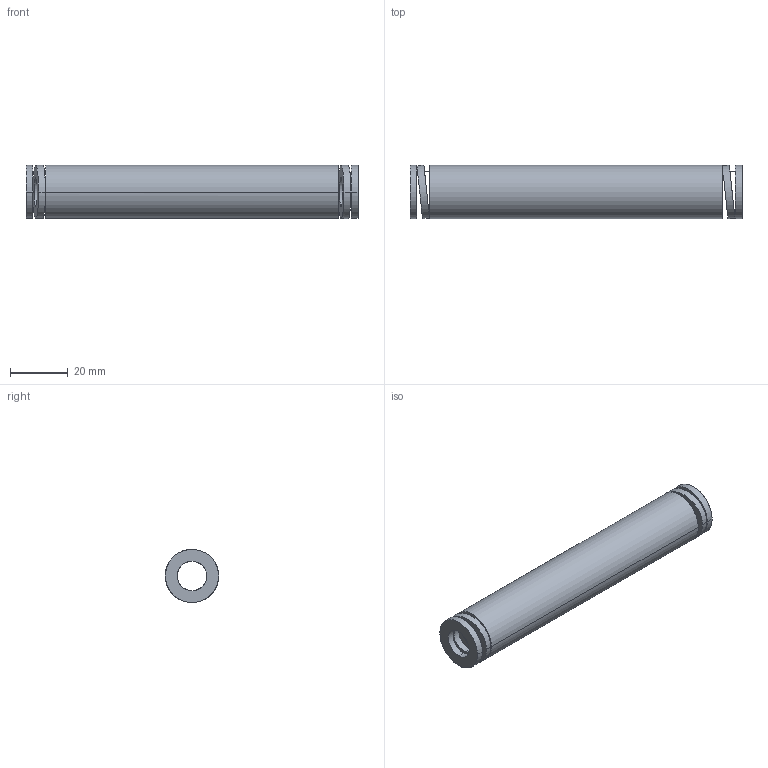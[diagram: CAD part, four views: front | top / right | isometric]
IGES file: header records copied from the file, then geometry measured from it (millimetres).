
Start section: START RECORD GO HERE.
Global section: file name: 392-B20-115.igs; native system: DASSAULT SYSTEMES CATIA V5 R20 - www.3ds.com; preprocessor: CATIA Version 5 Release 20 ; author: Utente; organization: NB04-ASUS; date: 20210812.154702; units: millimetre
Bounding box: 115 x 18.55 x 18.4 mm (x, y, z)
Surface area: 11815.1 mm2 (no closed solid volume)
Topology: 0 solids, 0 shells, 38 faces, 184 edges, 184 vertices
Faces by surface type: revolution 28, plane 10
